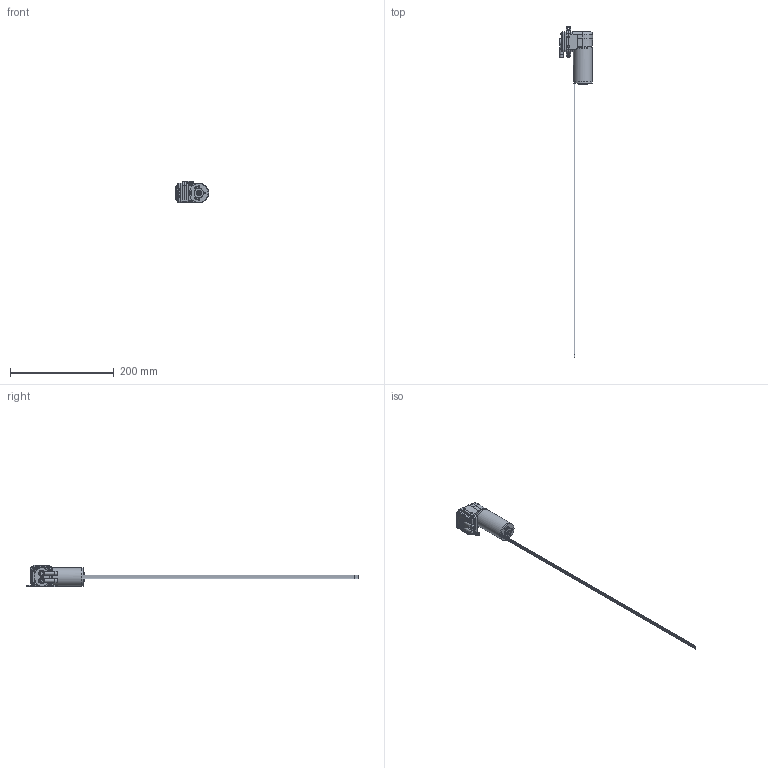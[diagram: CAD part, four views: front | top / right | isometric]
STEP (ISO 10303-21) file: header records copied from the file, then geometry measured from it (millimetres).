
FILE_DESCRIPTION (( 'STEP AP214' ), '1' );
FILE_NAME ('3211.6xx_Rev00_Assy.STEP', '2023-08-01T10:41:17', ( '' ), ( '' ), 'SwSTEP 2.0', 'SolidWorks 2021', '' );
FILE_SCHEMA (( 'AUTOMOTIVE_DESIGN' ));
Length unit declared in the file: millimetre
Products named in the file (1): 3211.6xx_Rev00_Assy
Bounding box: 64.1 x 640.9 x 41.8 mm (x, y, z)
Surface area: 51365 mm2 (no closed solid volume)
Topology: 0 solids, 11 shells, 529 faces, 1478 edges, 986 vertices
Faces by surface type: plane 260, cylinder 113, cone 62, bspline 55, torus 35, sphere 4
Full cylindrical faces by diameter (mm): 0.8 x4, 1.4 x4, 1.5 x1, 2.5 x11, 3.5 x6, 4.2 x4, 4.43 x1, 5.5 x1, 6 x1, 6.5 x2, 8 x6, 10 x2, 18 x2, 28 x2, 32 x1, 36 x2
Entity records: 25538 total; most frequent: CARTESIAN_POINT 6949, DIRECTION 2519, ORIENTED_EDGE 2485, EDGE_CURVE 1359, VERTEX_POINT 956, AXIS2_PLACEMENT_3D 918, EDGE_LOOP 727, VECTOR 683
